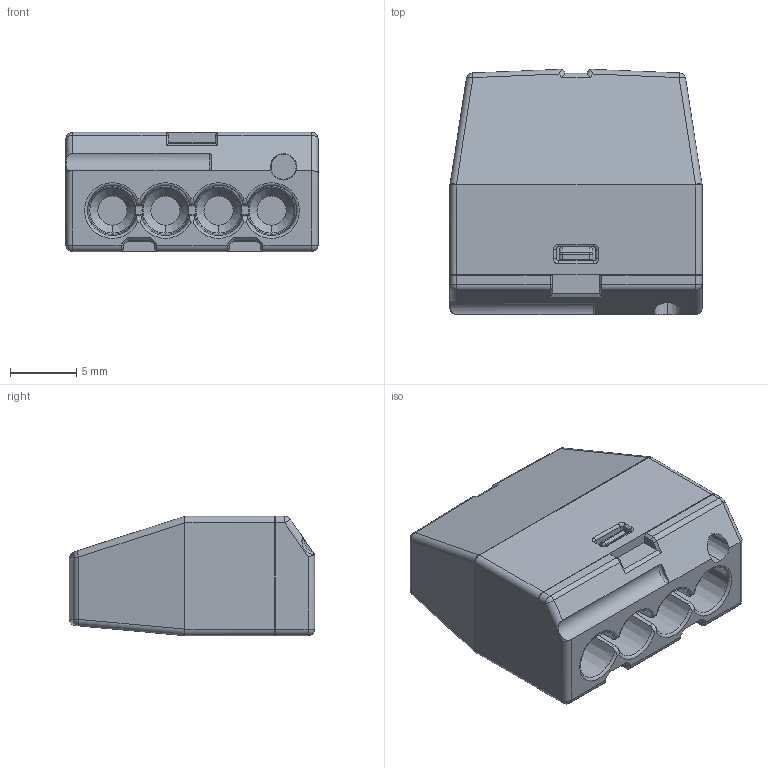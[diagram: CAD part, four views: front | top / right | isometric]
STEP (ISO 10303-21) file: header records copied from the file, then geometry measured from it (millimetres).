
FILE_DESCRIPTION(('Creo Elements/Direct Modeling STEP Export'),'2;1');
FILE_NAME('OK-4.stp','2014-09-02T11:10:51',(''),(''),'Creo Elements/Direct Modeling STEP processor for AP214 (Solid Model)','Creo Elements/Direct Modeling 18.1B 29-Sep-2012 (C) Parametric Technology GmbH','');
FILE_SCHEMA(('AUTOMOTIVE_DESIGN { 1 0 10303 214 1 1 1 1 }'));
Length unit declared in the file: millimetre
Products named in the file (2): OK-4; H99-0003-CE901_OK-4
Assembly tree (1 placements, depth 2):
  H99-0003-CE901_OK-4
    OK-4
Bounding box: 19 x 18.5 x 9 mm (x, y, z)
Volume: 1951 mm3; surface area: 2418.5 mm2
Topology: 1 solids, 1 shells, 281 faces, 736 edges, 450 vertices
Faces by surface type: plane 115, cylinder 99, cone 22, torus 21, sphere 12, bspline 12
Entity records: 10617 total; most frequent: CARTESIAN_POINT 3255, ORIENTED_EDGE 1448, DIRECTION 1264, EDGE_CURVE 724, VERTEX_POINT 450, AXIS2_PLACEMENT_3D 437, VECTOR 390, LINE 390
